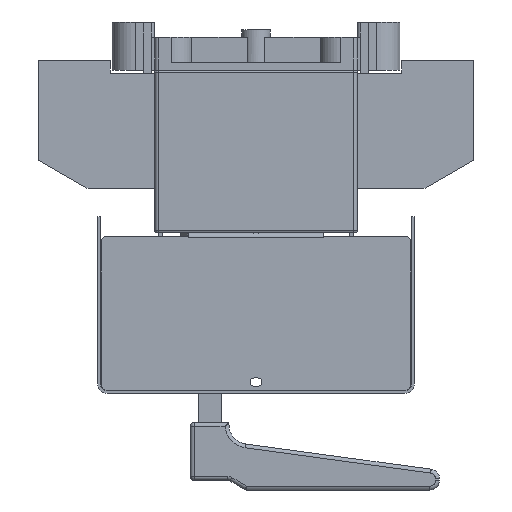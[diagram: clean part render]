
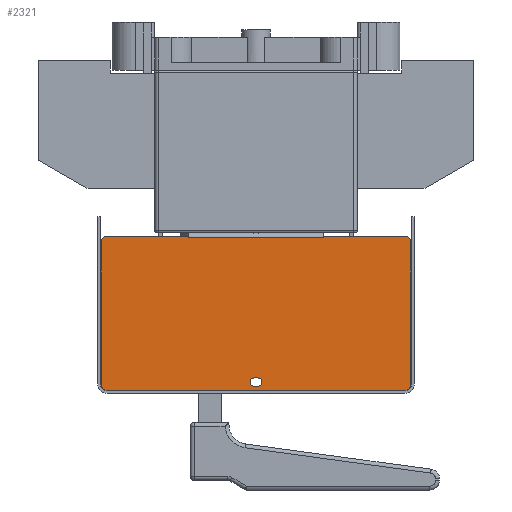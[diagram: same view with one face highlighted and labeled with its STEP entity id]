
A CAD part, left-side view. The second image highlights one B-rep face of the part: STEP entity #2321.
In plain terms, the highlighted planar face has unit normal (-1, 0, 0).
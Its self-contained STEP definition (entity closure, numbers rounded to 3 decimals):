
#2321=ADVANCED_FACE('',(#9372,#9373),#3410,.T.);
#3410=PLANE('',#25867);
#5212=LINE('',#37684,#7897);
#5222=LINE('',#37709,#7907);
#5224=LINE('',#37713,#7909);
#5226=LINE('',#37717,#7911);
#5229=LINE('',#37723,#7914);
#5239=LINE('',#37758,#7924);
#5240=LINE('',#37762,#7925);
#5241=LINE('',#37763,#7926);
#5242=LINE('',#37767,#7927);
#5243=LINE('',#37771,#7928);
#5244=LINE('',#37775,#7929);
#5245=LINE('',#37779,#7930);
#7897=VECTOR('',#30421,1.);
#7907=VECTOR('',#30447,1.);
#7909=VECTOR('',#30451,1.);
#7911=VECTOR('',#30455,1.);
#7914=VECTOR('',#30460,1.);
#7924=VECTOR('',#30488,1.);
#7925=VECTOR('',#30491,1.);
#7926=VECTOR('',#30492,1.);
#7927=VECTOR('',#30495,1.);
#7928=VECTOR('',#30498,1.);
#7929=VECTOR('',#30501,1.);
#7930=VECTOR('',#30504,1.);
#9372=FACE_BOUND('',#10268,.T.);
#9373=FACE_BOUND('',#10269,.T.);
#10268=EDGE_LOOP('',(#14606,#14607,#14608,#14609));
#10269=EDGE_LOOP('',(#14610,#14611,#14612,#14613,#14614,#14615,#14616,#14617,
#14618,#14619,#14620,#14621,#14622,#14623));
#14606=ORIENTED_EDGE('',*,*,#22229,.T.);
#14607=ORIENTED_EDGE('',*,*,#22230,.T.);
#14608=ORIENTED_EDGE('',*,*,#22231,.T.);
#14609=ORIENTED_EDGE('',*,*,#22232,.T.);
#14610=ORIENTED_EDGE('',*,*,#22208,.F.);
#14611=ORIENTED_EDGE('',*,*,#22206,.T.);
#14612=ORIENTED_EDGE('',*,*,#22193,.T.);
#14613=ORIENTED_EDGE('',*,*,#22210,.T.);
#14614=ORIENTED_EDGE('',*,*,#22213,.F.);
#14615=ORIENTED_EDGE('',*,*,#22233,.T.);
#14616=ORIENTED_EDGE('',*,*,#22234,.T.);
#14617=ORIENTED_EDGE('',*,*,#22235,.T.);
#14618=ORIENTED_EDGE('',*,*,#22236,.T.);
#14619=ORIENTED_EDGE('',*,*,#22237,.T.);
#14620=ORIENTED_EDGE('',*,*,#22238,.T.);
#14621=ORIENTED_EDGE('',*,*,#22239,.T.);
#14622=ORIENTED_EDGE('',*,*,#22240,.T.);
#14623=ORIENTED_EDGE('',*,*,#22241,.T.);
#19277=VERTEX_POINT('',#37683);
#19278=VERTEX_POINT('',#37685);
#19283=VERTEX_POINT('',#37706);
#19286=VERTEX_POINT('',#37714);
#19287=VERTEX_POINT('',#37718);
#19289=VERTEX_POINT('',#37724);
#19303=VERTEX_POINT('',#37756);
#19304=VERTEX_POINT('',#37757);
#19305=VERTEX_POINT('',#37759);
#19306=VERTEX_POINT('',#37761);
#19307=VERTEX_POINT('',#37764);
#19308=VERTEX_POINT('',#37766);
#19309=VERTEX_POINT('',#37768);
#19310=VERTEX_POINT('',#37770);
#19311=VERTEX_POINT('',#37772);
#19312=VERTEX_POINT('',#37774);
#19313=VERTEX_POINT('',#37776);
#19314=VERTEX_POINT('',#37778);
#22193=EDGE_CURVE('',#19278,#19277,#5212,.T.);
#22206=EDGE_CURVE('',#19283,#19278,#5222,.T.);
#22208=EDGE_CURVE('',#19283,#19286,#5224,.T.);
#22210=EDGE_CURVE('',#19277,#19287,#5226,.T.);
#22213=EDGE_CURVE('',#19289,#19287,#5229,.T.);
#22229=EDGE_CURVE('',#19303,#19304,#24340,.T.);
#22230=EDGE_CURVE('',#19304,#19305,#5239,.T.);
#22231=EDGE_CURVE('',#19305,#19306,#24341,.T.);
#22232=EDGE_CURVE('',#19306,#19303,#5240,.T.);
#22233=EDGE_CURVE('',#19289,#19307,#5241,.T.);
#22234=EDGE_CURVE('',#19307,#19308,#24342,.T.);
#22235=EDGE_CURVE('',#19308,#19309,#5242,.T.);
#22236=EDGE_CURVE('',#19309,#19310,#24343,.T.);
#22237=EDGE_CURVE('',#19310,#19311,#5243,.T.);
#22238=EDGE_CURVE('',#19311,#19312,#24344,.T.);
#22239=EDGE_CURVE('',#19312,#19313,#5244,.T.);
#22240=EDGE_CURVE('',#19313,#19314,#24345,.T.);
#22241=EDGE_CURVE('',#19314,#19286,#5245,.T.);
#24340=CIRCLE('',#25861,2.1);
#24341=CIRCLE('',#25862,2.1);
#24342=CIRCLE('',#25863,3.);
#24343=CIRCLE('',#25864,3.);
#24344=CIRCLE('',#25865,3.);
#24345=CIRCLE('',#25866,3.);
#25861=AXIS2_PLACEMENT_3D('',#37755,#30486,#30487);
#25862=AXIS2_PLACEMENT_3D('',#37760,#30489,#30490);
#25863=AXIS2_PLACEMENT_3D('',#37765,#30493,#30494);
#25864=AXIS2_PLACEMENT_3D('',#37769,#30496,#30497);
#25865=AXIS2_PLACEMENT_3D('',#37773,#30499,#30500);
#25866=AXIS2_PLACEMENT_3D('',#37777,#30502,#30503);
#25867=AXIS2_PLACEMENT_3D('',#37780,#30505,#30506);
#30421=DIRECTION('',(0.,1.,0.));
#30447=DIRECTION('',(0.,1.,0.));
#30451=DIRECTION('',(0.,0.,1.));
#30455=DIRECTION('',(0.,1.,0.));
#30460=DIRECTION('',(0.,0.,-1.));
#30486=DIRECTION('',(1.,0.,0.));
#30487=DIRECTION('',(0.,1.,0.));
#30488=DIRECTION('',(0.,-1.,0.));
#30489=DIRECTION('',(1.,0.,0.));
#30490=DIRECTION('',(0.,1.,0.));
#30491=DIRECTION('',(0.,1.,0.));
#30492=DIRECTION('',(0.,1.,0.));
#30493=DIRECTION('',(-1.,0.,0.));
#30494=DIRECTION('',(0.,1.,0.));
#30495=DIRECTION('',(0.,0.,-1.));
#30496=DIRECTION('',(-1.,0.,0.));
#30497=DIRECTION('',(0.,1.,0.));
#30498=DIRECTION('',(0.,-1.,0.));
#30499=DIRECTION('',(-1.,0.,0.));
#30500=DIRECTION('',(0.,1.,0.));
#30501=DIRECTION('',(0.,0.,1.));
#30502=DIRECTION('',(-1.,0.,0.));
#30503=DIRECTION('',(0.,1.,0.));
#30504=DIRECTION('',(0.,1.,0.));
#30505=DIRECTION('',(-1.,0.,0.));
#30506=DIRECTION('',(0.,-1.,0.));
#37683=CARTESIAN_POINT('',(-189.3,35.,-86.8));
#37684=CARTESIAN_POINT('',(-189.3,50.5,-86.8));
#37685=CARTESIAN_POINT('',(-189.3,-35.,-86.8));
#37706=CARTESIAN_POINT('',(-189.3,-35.002,-86.8));
#37709=CARTESIAN_POINT('',(-189.3,77.,-86.8));
#37713=CARTESIAN_POINT('',(-189.3,-35.002,-162.8));
#37714=CARTESIAN_POINT('',(-189.3,-35.002,-85.8));
#37717=CARTESIAN_POINT('',(-189.3,77.,-86.8));
#37718=CARTESIAN_POINT('',(-189.3,35.002,-86.8));
#37723=CARTESIAN_POINT('',(-189.3,35.002,-162.8));
#37724=CARTESIAN_POINT('',(-189.3,35.002,-85.8));
#37755=CARTESIAN_POINT('',(-189.3,1.,-161.4));
#37756=CARTESIAN_POINT('',(-189.3,1.,-163.5));
#37757=CARTESIAN_POINT('',(-189.3,1.,-159.3));
#37758=CARTESIAN_POINT('',(-189.3,1.,-159.3));
#37759=CARTESIAN_POINT('',(-189.3,-1.,-159.3));
#37760=CARTESIAN_POINT('',(-189.3,-1.,-161.4));
#37761=CARTESIAN_POINT('',(-189.3,-1.,-163.5));
#37762=CARTESIAN_POINT('',(-189.3,-1.,-163.5));
#37763=CARTESIAN_POINT('',(-189.3,-77.,-85.8));
#37764=CARTESIAN_POINT('',(-189.3,77.,-85.8));
#37765=CARTESIAN_POINT('',(-189.3,77.,-88.8));
#37766=CARTESIAN_POINT('',(-189.3,80.,-88.8));
#37767=CARTESIAN_POINT('',(-189.3,80.,-88.8));
#37768=CARTESIAN_POINT('',(-189.3,80.,-162.8));
#37769=CARTESIAN_POINT('',(-189.3,77.,-162.8));
#37770=CARTESIAN_POINT('',(-189.3,77.,-165.8));
#37771=CARTESIAN_POINT('',(-189.3,77.,-165.8));
#37772=CARTESIAN_POINT('',(-189.3,-77.,-165.8));
#37773=CARTESIAN_POINT('',(-189.3,-77.,-162.8));
#37774=CARTESIAN_POINT('',(-189.3,-80.,-162.8));
#37775=CARTESIAN_POINT('',(-189.3,-80.,-162.8));
#37776=CARTESIAN_POINT('',(-189.3,-80.,-88.8));
#37777=CARTESIAN_POINT('',(-189.3,-77.,-88.8));
#37778=CARTESIAN_POINT('',(-189.3,-77.,-85.8));
#37779=CARTESIAN_POINT('',(-189.3,-77.,-85.8));
#37780=CARTESIAN_POINT('',(-189.3,77.,-162.8));
